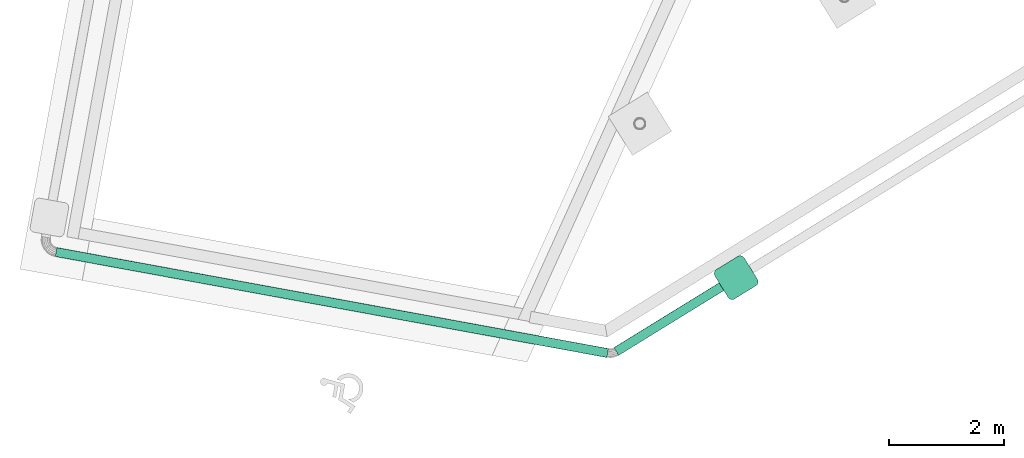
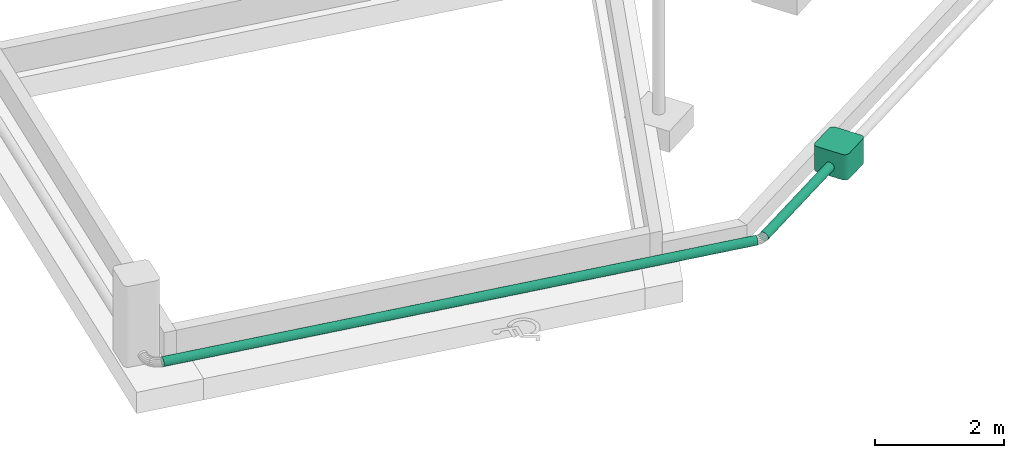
# One storey, part 7 of 17: 2 flow segments, 1 flow controller.
"""IFC2X3 building model written with IfcOpenShell, lengths in centimetres."""

from ifc_helpers import new_model, entity, si_unit, converted_unit, derived_unit, direction, frame, origin, origin_2d_with_axis, place, context, subcontext, project, spatial, circle, extrude, faceted_brep, source, transform, mapped, material, type_object, type_shapes, element, save


model = new_model("IFC2X3")

# Units and contexts
model_context = context("Model", 3, precision=0.001, world=origin(), true_north=direction((6.12303176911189e-17, 1.0)))
body_context = subcontext(model_context, "Body", "Model", "MODEL_VIEW")
ifc_project = project(units=[si_unit("LENGTHUNIT", "METRE", prefix="CENTI"), si_unit("AREAUNIT", "SQUARE_METRE"), si_unit("VOLUMEUNIT", "CUBIC_METRE"), converted_unit("PLANEANGLEUNIT", "DEGREE", entity("IfcRatioMeasure", 0.0174532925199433), si_unit("PLANEANGLEUNIT", "RADIAN"), dimensions=[0, 0, 0, 0, 0, 0, 0]), si_unit("MASSUNIT", "GRAM", prefix="KILO"), derived_unit("MASSDENSITYUNIT", [(si_unit("MASSUNIT", "GRAM", prefix="KILO"), 1), (si_unit("LENGTHUNIT", "METRE"), -3)]), si_unit("TIMEUNIT", "SECOND"), si_unit("FREQUENCYUNIT", "HERTZ"), si_unit("THERMODYNAMICTEMPERATUREUNIT", "DEGREE_CELSIUS"), derived_unit("THERMALTRANSMITTANCEUNIT", [(si_unit("MASSUNIT", "GRAM", prefix="KILO"), 1), (si_unit("THERMODYNAMICTEMPERATUREUNIT", "KELVIN"), -1), (si_unit("TIMEUNIT", "SECOND"), -3)]), derived_unit("VOLUMETRICFLOWRATEUNIT", [(si_unit("LENGTHUNIT", "METRE"), 3), (si_unit("TIMEUNIT", "SECOND"), -1)]), si_unit("ELECTRICCURRENTUNIT", "AMPERE"), si_unit("ELECTRICVOLTAGEUNIT", "VOLT"), si_unit("POWERUNIT", "WATT"), si_unit("FORCEUNIT", "NEWTON", prefix="KILO"), si_unit("ILLUMINANCEUNIT", "LUX"), si_unit("LUMINOUSFLUXUNIT", "LUMEN"), si_unit("LUMINOUSINTENSITYUNIT", "CANDELA"), derived_unit("USERDEFINED", [(si_unit("MASSUNIT", "GRAM", prefix="KILO"), -1), (si_unit("LENGTHUNIT", "METRE"), -2), (si_unit("TIMEUNIT", "SECOND"), 3), (si_unit("LUMINOUSFLUXUNIT", "LUMEN"), 1)]), derived_unit("LINEARVELOCITYUNIT", [(si_unit("LENGTHUNIT", "METRE"), 1), (si_unit("TIMEUNIT", "SECOND"), -1)]), si_unit("PRESSUREUNIT", "PASCAL"), derived_unit("USERDEFINED", [(si_unit("LENGTHUNIT", "METRE"), -2), (si_unit("MASSUNIT", "GRAM", prefix="KILO"), 1), (si_unit("TIMEUNIT", "SECOND"), -2)])], contexts=[model_context])

# Site, building, storey
site_placement = place(None, frame((2611.71187422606, 13650.4058644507, 0.0), z_axis=(0.0, 0.0, 1.0), x_axis=(0.0673222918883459, -0.997731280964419, 0.0)))
site = spatial("IfcSite", under=ifc_project, at=site_placement, Name="Surface", CompositionType="ELEMENT")
building_placement = place(site_placement, origin())
building = spatial("IfcBuilding", under=site, at=building_placement, CompositionType="ELEMENT")
storey_placement = place(building_placement, frame((0.0, 0.0, 86950.0)))
storey = spatial("IfcBuildingStorey", under=building, at=storey_placement, Name="-1 Soubassement", CompositionType="ELEMENT", Elevation=86950.0)

# Flow controller
ifc_material = material(Name="Béton, précoulé")
valve_type = type_object("IfcValveType", Name="Regard EP 600x600", PredefinedType="NOTDEFINED", material=ifc_material)
shared_shape = source(origin(), body_context, "Body", "Brep", [
    faceted_brep([(56.1595272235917, 59.0877304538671, 48.0), (54.2300795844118, 59.8869338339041, 48.0), (52.1595272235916, 60.1595272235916, 48.0), (8.15952722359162, 60.1595272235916, 48.0), (6.08897486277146, 59.8869338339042, 48.0), (4.15952722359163, 59.0877304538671, 48.0), (2.50267297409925, 57.816381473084, 48.0), (1.23132399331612, 56.1595272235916, 48.0), (0.432120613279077, 54.2300795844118, 48.0), (0.159527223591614, 52.1595272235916, 48.0), (0.1595272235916, 8.15952722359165, 48.0), (0.432120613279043, 6.08897486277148, 48.0), (1.23132399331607, 4.15952722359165, 48.0), (2.50267297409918, 2.50267297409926, 48.0), (4.15952722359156, 1.23132399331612, 48.0), (6.08897486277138, 0.43212061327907, 48.0), (8.15952722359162, 0.159527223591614, 48.0), (52.1595272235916, 0.159527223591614, 48.0), (54.2300795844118, 0.43212061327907, 48.0), (56.1595272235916, 1.2313239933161, 48.0), (57.816381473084, 2.50267297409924, 48.0), (59.0877304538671, 4.15952722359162, 48.0), (59.8869338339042, 6.08897486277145, 48.0), (60.1595272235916, 8.15952722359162, 48.0), (60.1595272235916, 52.1595272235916, 48.0), (59.8869338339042, 54.2300795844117, 48.0), (59.0877304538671, 56.1595272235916, 48.0), (57.816381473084, 57.816381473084, 48.0), (2.50267297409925, 57.816381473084, 43.0), (4.15952722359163, 59.0877304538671, 43.0), (6.08897486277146, 59.8869338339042, 43.0), (8.15952722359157, 60.1595272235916, 43.0), (52.1595272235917, 60.1595272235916, 43.0), (54.2300795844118, 59.8869338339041, 43.0), (56.1595272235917, 59.0877304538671, 43.0), (57.816381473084, 57.816381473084, 43.0), (59.0877304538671, 56.1595272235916, 43.0), (59.8869338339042, 54.2300795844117, 43.0), (60.1595272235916, 52.1595272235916, 43.0), (60.1595272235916, 8.15952722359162, 43.0), (59.8869338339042, 6.08897486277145, 43.0), (59.0877304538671, 4.15952722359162, 43.0), (57.816381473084, 2.50267297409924, 43.0), (56.1595272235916, 1.2313239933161, 43.0), (54.2300795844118, 0.43212061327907, 43.0), (52.1595272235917, 0.159527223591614, 43.0), (8.15952722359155, 0.1595272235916, 43.0), (6.08897486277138, 0.43212061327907, 43.0), (4.15952722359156, 1.23132399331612, 43.0), (2.50267297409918, 2.50267297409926, 43.0), (1.23132399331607, 4.15952722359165, 43.0), (0.432120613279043, 6.08897486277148, 43.0), (0.1595272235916, 8.1595272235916, 43.0), (0.159527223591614, 52.1595272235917, 43.0), (0.432120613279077, 54.2300795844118, 43.0), (1.23132399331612, 56.1595272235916, 43.0)], [[[0, 1, 2, 3, 4, 5, 6, 7, 8, 9, 10, 11, 12, 13, 14, 15, 16, 17, 18, 19, 20, 21, 22, 23, 24, 25, 26, 27]], [[28, 29, 30, 31, 32, 33, 34, 35, 36, 37, 38, 39, 40, 41, 42, 43, 44, 45, 46, 47, 48, 49, 50, 51, 52, 53, 54, 55]], [[3, 2, 32, 31]], [[4, 3, 31, 30]], [[5, 4, 30, 29]], [[6, 5, 29, 28]], [[54, 53, 9, 8]], [[7, 6, 28, 55]], [[55, 54, 8, 7]], [[10, 9, 53, 52]], [[11, 10, 52, 51]], [[12, 11, 51, 50]], [[13, 12, 50, 49]], [[47, 46, 16, 15]], [[14, 48, 47, 15]], [[48, 14, 13, 49]], [[17, 16, 46, 45]], [[18, 17, 45, 44]], [[19, 18, 44, 43]], [[20, 19, 43, 42]], [[42, 41, 21, 20]], [[21, 41, 40, 22]], [[23, 22, 40, 39]], [[24, 23, 39, 38]], [[25, 24, 38, 37]], [[26, 25, 37, 36]], [[27, 26, 36, 35]], [[0, 27, 35, 34]], [[0, 34, 33, 1]], [[33, 32, 2, 1]]]),
    faceted_brep([(6.08897486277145, 59.8869338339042, 0.0), (8.15952722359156, 60.1595272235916, 0.0), (52.1595272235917, 60.1595272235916, 0.0), (54.2300795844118, 59.8869338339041, 0.0), (56.1595272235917, 59.0877304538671, 0.0), (57.816381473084, 57.816381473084, 0.0), (59.0877304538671, 56.1595272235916, 0.0), (59.8869338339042, 54.2300795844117, 0.0), (60.1595272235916, 52.1595272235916, 0.0), (60.1595272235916, 8.15952722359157, 0.0), (59.8869338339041, 6.0889748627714, 0.0), (59.0877304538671, 4.15952722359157, 0.0), (57.816381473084, 2.5026729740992, 0.0), (56.1595272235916, 1.23132399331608, 0.0), (54.2300795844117, 0.432120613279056, 0.0), (52.1595272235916, 0.159527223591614, 0.0), (8.15952722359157, 0.159527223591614, 0.0), (6.0889748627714, 0.432120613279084, 0.0), (4.15952722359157, 1.23132399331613, 0.0), (2.5026729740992, 2.50267297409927, 0.0), (1.23132399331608, 4.15952722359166, 0.0), (0.432120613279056, 6.08897486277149, 0.0), (0.159527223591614, 8.15952722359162, 0.0), (0.159527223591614, 52.1595272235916, 0.0), (0.43212061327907, 54.2300795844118, 0.0), (1.23132399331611, 56.1595272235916, 0.0), (2.50267297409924, 57.816381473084, 0.0), (4.15952722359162, 59.0877304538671, 0.0), (52.1595272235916, 60.1595272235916, 5.0), (8.15952722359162, 60.1595272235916, 5.0), (6.08897486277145, 59.8869338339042, 5.0), (4.15952722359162, 59.0877304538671, 5.0), (2.50267297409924, 57.816381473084, 5.0), (1.23132399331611, 56.1595272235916, 5.0), (0.43212061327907, 54.2300795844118, 5.0), (0.159527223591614, 52.1595272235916, 5.0), (0.159527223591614, 8.15952722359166, 5.0), (0.432120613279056, 6.08897486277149, 5.0), (1.23132399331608, 4.15952722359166, 5.0), (2.5026729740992, 2.50267297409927, 5.0), (4.15952722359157, 1.23132399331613, 5.0), (6.0889748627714, 0.432120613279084, 5.0), (8.15952722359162, 0.159527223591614, 5.0), (52.1595272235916, 0.159527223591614, 5.0), (54.2300795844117, 0.432120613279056, 5.0), (56.1595272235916, 1.23132399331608, 5.0), (57.816381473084, 2.5026729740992, 5.0), (59.0877304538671, 4.15952722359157, 5.0), (59.8869338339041, 6.0889748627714, 5.0), (60.1595272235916, 8.15952722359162, 5.0), (60.1595272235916, 52.1595272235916, 5.0), (59.8869338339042, 54.2300795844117, 5.0), (59.0877304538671, 56.1595272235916, 5.0), (57.816381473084, 57.816381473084, 5.0), (56.1595272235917, 59.0877304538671, 5.0), (54.2300795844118, 59.8869338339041, 5.0)], [[[0, 1, 2, 3, 4, 5, 6, 7, 8, 9, 10, 11, 12, 13, 14, 15, 16, 17, 18, 19, 20, 21, 22, 23, 24, 25, 26, 27]], [[28, 29, 30, 31, 32, 33, 34, 35, 36, 37, 38, 39, 40, 41, 42, 43, 44, 45, 46, 47, 48, 49, 50, 51, 52, 53, 54, 55]], [[29, 28, 2, 1]], [[36, 35, 23, 22]], [[43, 42, 16, 15]], [[50, 49, 9, 8]], [[30, 29, 1, 0]], [[31, 30, 0, 27]], [[32, 31, 27, 26]], [[24, 23, 35, 34]], [[33, 32, 26, 25]], [[25, 24, 34, 33]], [[37, 36, 22, 21]], [[38, 37, 21, 20]], [[39, 38, 20, 19]], [[17, 16, 42, 41]], [[40, 18, 17, 41]], [[18, 40, 39, 19]], [[44, 43, 15, 14]], [[45, 44, 14, 13]], [[46, 45, 13, 12]], [[12, 11, 47, 46]], [[47, 11, 10, 48]], [[49, 48, 10, 9]], [[51, 50, 8, 7]], [[52, 51, 7, 6]], [[53, 52, 6, 5]], [[54, 53, 5, 4]], [[54, 4, 3, 55]], [[3, 2, 28, 55]]]),
    faceted_brep([(56.1595272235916, 1.23132399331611, 43.0), (53.6595272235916, 5.56145101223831, 43.0), (54.2300795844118, 0.432120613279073, 43.0), (54.2808475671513, 6.03820688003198, 43.0), (57.816381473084, 2.50267297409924, 43.0), (59.0877304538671, 4.15952722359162, 43.0), (54.7576034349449, 6.65952722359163, 43.0), (59.8869338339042, 6.08897486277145, 43.0), (55.0573047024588, 7.38307008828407, 43.0), (60.1595272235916, 8.15952722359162, 43.0), (55.1595272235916, 8.15952722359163, 43.0), (55.1595272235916, 52.1595272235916, 43.0), (60.1595272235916, 52.1595272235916, 43.0), (55.0573047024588, 52.9359843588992, 43.0), (59.8869338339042, 54.2300795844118, 43.0), (54.7576034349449, 53.6595272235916, 43.0), (59.0877304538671, 56.1595272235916, 43.0), (54.2808475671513, 54.2808475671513, 43.0), (57.816381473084, 57.816381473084, 43.0), (56.1595272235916, 59.0877304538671, 43.0), (53.6595272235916, 54.7576034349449, 43.0), (54.2300795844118, 59.8869338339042, 43.0), (52.9359843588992, 55.0573047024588, 43.0), (52.1595272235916, 60.1595272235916, 43.0), (52.1595272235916, 55.1595272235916, 43.0), (8.15952722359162, 55.1595272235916, 43.0), (8.15952722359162, 60.1595272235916, 43.0), (7.38307008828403, 55.0573047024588, 43.0), (6.08897486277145, 59.8869338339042, 43.0), (6.6595272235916, 54.7576034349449, 43.0), (4.15952722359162, 59.0877304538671, 43.0), (6.03820688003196, 54.2808475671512, 43.0), (2.50267297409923, 57.816381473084, 43.0), (1.2313239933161, 56.1595272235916, 43.0), (5.56145101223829, 53.6595272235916, 43.0), (0.43212061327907, 54.2300795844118, 43.0), (5.26174974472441, 52.9359843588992, 43.0), (0.159527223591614, 52.1595272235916, 43.0), (5.15952722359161, 52.1595272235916, 43.0), (0.159527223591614, 8.15952722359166, 43.0), (5.15952722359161, 8.1595272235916, 43.0), (5.26174974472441, 7.38307008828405, 43.0), (0.432120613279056, 6.08897486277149, 43.0), (5.5614510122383, 6.65952722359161, 43.0), (1.23132399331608, 4.15952722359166, 43.0), (6.03820688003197, 6.03820688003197, 43.0), (2.5026729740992, 2.50267297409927, 43.0), (4.15952722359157, 1.23132399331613, 43.0), (6.65952722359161, 5.56145101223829, 43.0), (6.0889748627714, 0.43212061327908, 43.0), (7.38307008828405, 5.26174974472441, 43.0), (8.15952722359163, 0.15952722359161, 43.0), (8.15952722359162, 5.15952722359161, 43.0), (52.1595272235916, 0.15952722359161, 43.0), (52.9359843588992, 5.26174974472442, 43.0), (52.1595272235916, 5.15952722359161, 43.0), (56.1595272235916, 59.0877304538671, 5.0), (53.6595272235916, 54.7576034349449, 5.0), (54.2300795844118, 59.8869338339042, 5.0), (54.2808475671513, 54.2808475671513, 5.0), (57.816381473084, 57.816381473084, 5.0), (59.0877304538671, 56.1595272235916, 5.0), (54.7576034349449, 53.6595272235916, 5.0), (59.8869338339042, 54.2300795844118, 5.0), (55.0573047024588, 52.9359843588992, 5.0), (60.1595272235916, 52.1595272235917, 5.0), (55.1595272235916, 52.1595272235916, 5.0), (55.1595272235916, 8.15952722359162, 5.0), (60.1595272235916, 8.15952722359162, 5.0), (55.0573047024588, 7.38307008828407, 5.0), (59.8869338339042, 6.08897486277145, 5.0), (54.7576034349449, 6.65952722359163, 5.0), (59.0877304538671, 4.15952722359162, 5.0), (54.2808475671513, 6.03820688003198, 5.0), (57.816381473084, 2.50267297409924, 5.0), (56.1595272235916, 1.23132399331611, 5.0), (53.6595272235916, 5.56145101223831, 5.0), (54.2300795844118, 0.432120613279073, 5.0), (52.9359843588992, 5.26174974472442, 5.0), (52.1595272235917, 0.15952722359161, 5.0), (52.1595272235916, 5.15952722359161, 5.0), (8.1595272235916, 5.15952722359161, 5.0), (8.15952722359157, 0.15952722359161, 5.0), (7.38307008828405, 5.26174974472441, 5.0), (6.0889748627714, 0.43212061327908, 5.0), (6.65952722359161, 5.56145101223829, 5.0), (4.15952722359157, 1.23132399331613, 5.0), (6.03820688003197, 6.03820688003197, 5.0), (2.5026729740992, 2.50267297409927, 5.0), (1.23132399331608, 4.15952722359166, 5.0), (5.5614510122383, 6.65952722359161, 5.0), (0.432120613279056, 6.08897486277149, 5.0), (5.26174974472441, 7.38307008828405, 5.0), (0.159527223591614, 8.15952722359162, 5.0), (5.15952722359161, 8.15952722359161, 5.0), (0.159527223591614, 52.1595272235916, 5.0), (5.15952722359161, 52.1595272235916, 5.0), (5.26174974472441, 52.9359843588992, 5.0), (0.43212061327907, 54.2300795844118, 5.0), (5.56145101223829, 53.6595272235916, 5.0), (1.2313239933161, 56.1595272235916, 5.0), (6.03820688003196, 54.2808475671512, 5.0), (2.50267297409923, 57.816381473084, 5.0), (4.15952722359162, 59.0877304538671, 5.0), (6.6595272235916, 54.7576034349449, 5.0), (6.08897486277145, 59.8869338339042, 5.0), (7.38307008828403, 55.0573047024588, 5.0), (8.15952722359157, 60.1595272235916, 5.0), (8.1595272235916, 55.1595272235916, 5.0), (52.1595272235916, 60.1595272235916, 5.0), (52.9359843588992, 55.0573047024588, 5.0), (52.1595272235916, 55.1595272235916, 5.0), (34.1595272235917, 60.1595272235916, 24.9282032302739), (32.2300795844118, 60.1595272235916, 25.7274066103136), (35.8163814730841, 60.1595272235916, 23.6568542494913), (30.1595272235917, 60.1595272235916, 26.0), (37.0877304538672, 60.1595272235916, 22.0), (37.8869338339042, 60.1595272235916, 20.0705523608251), (38.1595272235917, 60.1595272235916, 18.0), (37.8869338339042, 60.1595272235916, 15.9294476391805), (37.0877304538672, 60.1595272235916, 14.0), (35.8163814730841, 60.1595272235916, 12.3431457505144), (34.1595272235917, 60.1595272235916, 11.0717967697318), (32.2300795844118, 60.1595272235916, 10.2725933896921), (30.1595272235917, 60.1595272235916, 10.0), (22.4321206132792, 60.1595272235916, 20.0705523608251), (28.0889748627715, 60.1595272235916, 10.2725933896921), (26.1595272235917, 60.1595272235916, 11.0717967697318), (24.5026729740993, 60.1595272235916, 12.3431457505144), (23.2313239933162, 60.1595272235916, 14.0), (22.4321206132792, 60.1595272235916, 15.9294476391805), (22.1595272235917, 60.1595272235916, 18.0), (23.2313239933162, 60.1595272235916, 22.0), (28.0889748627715, 60.1595272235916, 25.7274066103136), (26.1595272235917, 60.1595272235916, 24.9282032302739), (24.5026729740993, 60.1595272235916, 23.6568542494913), (26.15952722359, 0.15952722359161, 24.9282032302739), (28.0889748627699, 0.15952722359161, 25.7274066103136), (24.5026729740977, 0.15952722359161, 23.6568542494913), (30.15952722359, 0.15952722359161, 26.0), (23.2313239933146, 0.15952722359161, 22.0), (22.4321206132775, 0.15952722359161, 20.0705523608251), (22.1595272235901, 0.15952722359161, 18.0), (22.4321206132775, 0.15952722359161, 15.9294476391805), (23.2313239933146, 0.15952722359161, 14.0), (24.5026729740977, 0.15952722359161, 12.3431457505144), (26.1595272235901, 0.15952722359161, 11.0717967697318), (28.0889748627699, 0.15952722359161, 10.2725933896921), (30.1595272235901, 0.15952722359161, 10.0), (37.8869338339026, 0.15952722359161, 20.0705523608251), (32.2300795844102, 0.15952722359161, 10.2725933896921), (34.1595272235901, 0.15952722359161, 11.0717967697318), (35.8163814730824, 0.15952722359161, 12.3431457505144), (37.0877304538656, 0.15952722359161, 14.0), (37.8869338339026, 0.15952722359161, 15.9294476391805), (38.1595272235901, 0.15952722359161, 18.0), (37.0877304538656, 0.15952722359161, 22.0), (32.2300795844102, 0.15952722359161, 25.7274066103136), (34.15952722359, 0.15952722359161, 24.9282032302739), (35.8163814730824, 0.15952722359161, 23.6568542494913), (22.1595272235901, 5.15952722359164, 18.0), (22.4321206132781, 5.15952722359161, 15.9294476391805), (22.1595272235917, 55.1595272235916, 18.0), (22.4321206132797, 55.1595272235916, 15.9294476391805), (23.2313239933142, 5.15952722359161, 14.0), (23.2313239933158, 55.1595272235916, 14.0), (26.1595272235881, 5.15952722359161, 11.0717967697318), (24.5026729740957, 5.15952722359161, 12.3431457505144), (24.5026729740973, 55.1595272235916, 12.3431457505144), (26.1595272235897, 55.1595272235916, 11.0717967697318), (28.0889748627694, 5.15952722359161, 10.2725933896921), (28.088974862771, 55.1595272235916, 10.2725933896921), (30.15952722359, 5.15952722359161, 10.0), (30.1595272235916, 55.1595272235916, 10.0), (32.2300795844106, 5.15952722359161, 10.2725933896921), (32.2300795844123, 55.1595272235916, 10.2725933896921), (37.8869338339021, 5.15952722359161, 15.9294476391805), (37.087730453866, 5.15952722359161, 14.0), (37.0877304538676, 55.1595272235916, 14.0), (37.8869338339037, 55.1595272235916, 15.9294476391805), (35.8163814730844, 5.15952722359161, 12.3431457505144), (35.816381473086, 55.1595272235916, 12.3431457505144), (38.1595272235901, 5.15952722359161, 18.0), (38.1595272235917, 55.1595272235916, 18.0), (34.1595272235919, 5.15952722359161, 11.0717967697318), (34.1595272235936, 55.1595272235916, 11.0717967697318), (37.8869338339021, 5.15952722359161, 20.0705523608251), (37.8869338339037, 55.1595272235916, 20.0705523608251), (37.087730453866, 5.15952722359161, 22.0), (37.0877304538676, 55.1595272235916, 22.0), (34.159527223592, 5.15952722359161, 24.9282032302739), (35.8163814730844, 5.15952722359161, 23.6568542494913), (35.816381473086, 55.1595272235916, 23.6568542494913), (34.1595272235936, 55.1595272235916, 24.9282032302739), (32.2300795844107, 5.15952722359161, 25.7274066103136), (32.2300795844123, 55.1595272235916, 25.7274066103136), (30.15952722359, 5.15952722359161, 26.0), (30.1595272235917, 55.1595272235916, 26.0), (26.1595272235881, 5.15952722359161, 24.9282032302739), (24.5026729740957, 5.15952722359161, 23.6568542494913), (26.1595272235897, 55.1595272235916, 24.9282032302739), (24.5026729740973, 55.1595272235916, 23.6568542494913), (22.4321206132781, 5.15952722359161, 20.0705523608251), (23.2313239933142, 5.15952722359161, 22.0), (23.2313239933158, 55.1595272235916, 22.0), (22.4321206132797, 55.1595272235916, 20.0705523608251), (28.0889748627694, 5.15952722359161, 25.7274066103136), (28.088974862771, 55.1595272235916, 25.7274066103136), (8.15952722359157, 55.1595272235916, 23.8751470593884), (52.1595272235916, 55.1595272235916, 24.1248529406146), (53.3075775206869, 54.9311658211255, 24.0), (52.7444457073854, 55.1019531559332, 21.2463431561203), (54.9311658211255, 53.3075775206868, 24.0), (55.1018157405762, 52.7451365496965, 21.2342534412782), (53.9858115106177, 54.5395872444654, 24.0), (54.5395872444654, 53.9858115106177, 24.0), (55.1595272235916, 52.1595272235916, 23.8751470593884), (55.1595272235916, 8.15952722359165, 24.1248529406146), (54.5395872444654, 6.33324293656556, 24.0), (53.3075775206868, 5.38788862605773, 24.0), (52.7451365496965, 5.21723870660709, 21.2342534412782), (54.9311658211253, 7.01147692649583, 24.0), (55.1018157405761, 7.57391789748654, 26.7657465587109), (53.9858115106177, 5.77946720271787, 24.0), (52.1595272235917, 5.15952722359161, 23.8751470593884), (8.15952722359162, 5.15952722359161, 24.1248529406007), (7.57460873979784, 5.21710129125, 21.2463431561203), (7.01147692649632, 5.38788862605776, 24.0), (5.38788862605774, 7.01147692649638, 24.0), (5.21723870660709, 7.57391789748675, 21.2342534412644), (6.33324293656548, 5.77946720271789, 24.0), (5.77946720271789, 6.33324293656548, 24.0), (5.15952722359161, 8.15952722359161, 23.8751470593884), (5.15952722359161, 52.1595272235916, 24.1248529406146), (5.21710129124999, 52.7444457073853, 21.2463431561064), (5.38788862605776, 53.3075775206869, 24.0), (7.01147692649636, 54.9311658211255, 24.0), (7.57391789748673, 55.1018157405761, 21.2342534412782), (5.77946720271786, 53.9858115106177, 24.0), (6.33324293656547, 54.5395872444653, 24.0)], [[[0, 1, 2]], [[1, 0, 3]], [[4, 3, 0]], [[4, 5, 3]], [[5, 6, 3]], [[5, 7, 6]], [[8, 6, 7]], [[8, 7, 9]], [[8, 9, 10]], [[10, 9, 11]], [[12, 11, 9]], [[13, 11, 12]], [[13, 12, 14]], [[15, 13, 14]], [[16, 15, 14]], [[17, 15, 16]], [[18, 17, 16]], [[18, 19, 17]], [[19, 20, 17]], [[19, 21, 20]], [[20, 21, 22]], [[21, 23, 22]], [[24, 22, 23]], [[24, 23, 25]], [[26, 25, 23]], [[27, 25, 26]], [[27, 26, 28]], [[27, 28, 29]], [[28, 30, 29]], [[31, 29, 30]], [[31, 30, 32]], [[31, 32, 33]], [[33, 34, 31]], [[35, 34, 33]], [[35, 36, 34]], [[36, 35, 37]], [[37, 38, 36]], [[38, 37, 39]], [[39, 40, 38]], [[40, 39, 41]], [[42, 41, 39]], [[41, 42, 43]], [[43, 42, 44]], [[43, 44, 45]], [[45, 44, 46]], [[45, 46, 47]], [[45, 47, 48]], [[47, 49, 48]], [[50, 48, 49]], [[51, 50, 49]], [[51, 52, 50]], [[52, 51, 53]], [[53, 2, 54]], [[54, 55, 53]], [[53, 55, 52]], [[54, 2, 1]], [[56, 57, 58]], [[57, 56, 59]], [[60, 59, 56]], [[60, 61, 59]], [[61, 62, 59]], [[61, 63, 62]], [[64, 62, 63]], [[64, 63, 65]], [[64, 65, 66]], [[66, 65, 67]], [[68, 67, 65]], [[69, 67, 68]], [[69, 68, 70]], [[71, 69, 70]], [[72, 71, 70]], [[73, 71, 72]], [[74, 73, 72]], [[74, 75, 73]], [[75, 76, 73]], [[75, 77, 76]], [[76, 77, 78]], [[77, 79, 78]], [[80, 78, 79]], [[80, 79, 81]], [[82, 81, 79]], [[83, 81, 82]], [[83, 82, 84]], [[83, 84, 85]], [[84, 86, 85]], [[87, 85, 86]], [[87, 86, 88]], [[87, 88, 89]], [[89, 90, 87]], [[91, 90, 89]], [[91, 92, 90]], [[92, 91, 93]], [[93, 94, 92]], [[94, 93, 95]], [[95, 96, 94]], [[96, 95, 97]], [[98, 97, 95]], [[97, 98, 99]], [[99, 98, 100]], [[99, 100, 101]], [[101, 100, 102]], [[101, 102, 103]], [[101, 103, 104]], [[103, 105, 104]], [[106, 104, 105]], [[107, 106, 105]], [[107, 108, 106]], [[108, 107, 109]], [[109, 58, 110]], [[110, 111, 109]], [[109, 111, 108]], [[110, 58, 57]], [[12, 9, 68, 65]], [[23, 112, 113]], [[112, 23, 114]], [[23, 113, 115]], [[116, 114, 23]], [[117, 116, 23]], [[117, 23, 109]], [[115, 26, 23]], [[109, 118, 117]], [[119, 118, 109]], [[120, 119, 109]], [[121, 120, 109]], [[109, 122, 121]], [[122, 109, 123]], [[124, 123, 109]], [[109, 107, 124]], [[26, 125, 107]], [[126, 124, 107]], [[127, 126, 107]], [[107, 128, 127]], [[128, 107, 129]], [[130, 129, 107]], [[131, 130, 107]], [[131, 107, 125]], [[132, 125, 26]], [[26, 115, 133]], [[26, 133, 134]], [[134, 135, 26]], [[135, 132, 26]], [[39, 37, 95, 93]], [[51, 136, 137]], [[136, 51, 138]], [[51, 137, 139]], [[140, 138, 51]], [[141, 140, 51]], [[141, 51, 82]], [[139, 53, 51]], [[82, 142, 141]], [[143, 142, 82]], [[144, 143, 82]], [[145, 144, 82]], [[82, 146, 145]], [[146, 82, 147]], [[148, 147, 82]], [[82, 79, 148]], [[53, 149, 79]], [[150, 148, 79]], [[151, 150, 79]], [[79, 152, 151]], [[152, 79, 153]], [[154, 153, 79]], [[155, 154, 79]], [[155, 79, 149]], [[156, 149, 53]], [[53, 139, 157]], [[53, 157, 158]], [[158, 159, 53]], [[159, 156, 53]], [[160, 142, 143, 161]], [[131, 162, 163, 130]], [[161, 143, 144, 164]], [[130, 163, 165, 129]], [[166, 167, 145, 146]], [[127, 128, 168, 169]], [[145, 167, 164, 144]], [[168, 128, 129, 165]], [[170, 166, 146, 147]], [[126, 127, 169, 171]], [[170, 147, 148, 172]], [[126, 171, 173, 124]], [[150, 174, 172, 148]], [[175, 123, 124, 173]], [[176, 177, 153, 154]], [[119, 120, 178, 179]], [[180, 152, 153, 177]], [[121, 181, 178, 120]], [[176, 154, 155, 182]], [[119, 179, 183, 118]], [[151, 184, 174, 150]], [[185, 122, 123, 175]], [[151, 152, 180, 184]], [[185, 181, 121, 122]], [[182, 155, 149, 186]], [[118, 183, 187, 117]], [[186, 149, 156, 188]], [[117, 187, 189, 116]], [[190, 191, 159, 158]], [[112, 114, 192, 193]], [[159, 191, 188, 156]], [[192, 114, 116, 189]], [[194, 190, 158, 157]], [[113, 112, 193, 195]], [[194, 157, 139, 196]], [[113, 195, 197, 115]], [[198, 136, 138, 199]], [[134, 200, 201, 135]], [[202, 203, 140, 141]], [[125, 132, 204, 205]], [[203, 199, 138, 140]], [[132, 135, 201, 204]], [[160, 202, 141, 142]], [[131, 125, 205, 162]], [[206, 137, 136, 198]], [[133, 207, 200, 134]], [[206, 196, 139, 137]], [[133, 115, 197, 207]], [[14, 63, 61, 16]], [[16, 61, 60, 18]], [[12, 65, 63, 14]], [[19, 56, 58, 21]], [[21, 58, 109, 23]], [[18, 60, 56, 19]], [[28, 105, 103, 30]], [[30, 103, 102, 32]], [[107, 105, 28, 26]], [[33, 100, 98, 35]], [[35, 98, 95, 37]], [[32, 102, 100, 33]], [[42, 91, 89, 44]], [[44, 89, 88, 46]], [[93, 91, 42, 39]], [[47, 86, 84, 49]], [[49, 84, 82, 51]], [[46, 88, 86, 47]], [[2, 77, 75, 0]], [[0, 75, 74, 4]], [[79, 77, 2, 53]], [[5, 72, 70, 7]], [[7, 70, 68, 9]], [[4, 74, 72, 5]], [[25, 200, 207]], [[200, 25, 201]], [[25, 207, 197]], [[204, 201, 25]], [[205, 204, 25]], [[205, 25, 208]], [[197, 24, 25]], [[205, 208, 108]], [[108, 162, 205]], [[163, 162, 108]], [[165, 163, 108]], [[168, 165, 108]], [[108, 169, 168]], [[169, 108, 171]], [[173, 171, 108]], [[108, 111, 173]], [[175, 173, 111]], [[185, 175, 111]], [[111, 181, 185]], [[181, 111, 178]], [[179, 178, 111]], [[183, 179, 111]], [[183, 111, 187]], [[187, 111, 209]], [[187, 209, 24]], [[24, 197, 195]], [[24, 195, 193]], [[193, 192, 24]], [[189, 187, 24]], [[192, 189, 24]], [[210, 22, 211]], [[212, 213, 13]], [[24, 209, 111, 211]], [[20, 22, 210]], [[24, 211, 22]], [[20, 210, 214]], [[214, 57, 59]], [[211, 110, 210]], [[57, 210, 110]], [[17, 214, 215]], [[216, 11, 213, 66]], [[215, 15, 17]], [[213, 11, 13]], [[64, 212, 62]], [[212, 13, 15]], [[57, 214, 210]], [[215, 62, 212]], [[62, 215, 59]], [[212, 64, 213]], [[64, 66, 213]], [[20, 214, 17]], [[215, 214, 59]], [[110, 211, 111]], [[15, 215, 212]], [[11, 216, 66, 67, 217, 10]], [[6, 218, 3]], [[219, 220, 54]], [[221, 6, 8]], [[221, 8, 222]], [[1, 223, 219]], [[8, 10, 222]], [[6, 221, 218]], [[218, 71, 73]], [[222, 10, 217, 67]], [[71, 221, 69]], [[3, 218, 223]], [[224, 55, 220, 80]], [[223, 1, 3]], [[221, 222, 69]], [[220, 55, 54]], [[219, 54, 1]], [[222, 67, 69]], [[223, 76, 219]], [[219, 78, 220]], [[78, 80, 220]], [[71, 218, 221]], [[78, 219, 76]], [[223, 218, 73]], [[76, 223, 73]], [[55, 190, 194]], [[190, 55, 191]], [[55, 194, 196]], [[188, 191, 55]], [[186, 188, 55]], [[186, 55, 224]], [[196, 52, 55]], [[186, 224, 80]], [[80, 182, 186]], [[176, 182, 80]], [[177, 176, 80]], [[180, 177, 80]], [[80, 184, 180]], [[184, 80, 174]], [[172, 174, 80]], [[80, 81, 172]], [[170, 172, 81]], [[166, 170, 81]], [[81, 167, 166]], [[167, 81, 164]], [[161, 164, 81]], [[160, 161, 81]], [[160, 81, 202]], [[202, 81, 225]], [[202, 225, 52]], [[52, 196, 206]], [[52, 206, 198]], [[198, 199, 52]], [[203, 202, 52]], [[199, 203, 52]], [[226, 227, 50]], [[228, 229, 41]], [[52, 225, 81, 226]], [[227, 48, 50]], [[52, 226, 50]], [[85, 227, 83]], [[230, 85, 87]], [[226, 83, 227]], [[48, 227, 230]], [[45, 230, 231]], [[232, 40, 229, 94]], [[231, 43, 45]], [[229, 40, 41]], [[92, 228, 90]], [[228, 41, 43]], [[48, 230, 45]], [[231, 90, 228]], [[90, 231, 87]], [[228, 92, 229]], [[92, 94, 229]], [[43, 231, 228]], [[231, 230, 87]], [[83, 226, 81]], [[85, 230, 227]], [[40, 232, 94, 96, 233, 38]], [[234, 235, 36]], [[236, 237, 27]], [[38, 233, 96, 234]], [[235, 34, 36]], [[38, 234, 36]], [[99, 235, 97]], [[238, 99, 101]], [[234, 97, 235]], [[34, 235, 238]], [[31, 238, 239]], [[208, 25, 237, 108]], [[239, 29, 31]], [[237, 25, 27]], [[106, 236, 104]], [[236, 27, 29]], [[34, 238, 31]], [[239, 104, 236]], [[104, 239, 101]], [[236, 106, 237]], [[106, 108, 237]], [[29, 239, 236]], [[239, 238, 101]], [[97, 234, 96]], [[99, 238, 235]]]),
])
type_shapes(valve_type, [shared_shape])
flow_controller_placement = place(storey_placement, frame((5181.81046574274, 616.906834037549, 0.0), z_axis=(0.0, 0.0, 1.0), x_axis=(-0.88433550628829, -0.466851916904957, 0.0)))
element("IfcFlowController", 1, at=flow_controller_placement, inside=storey, type_object=valve_type, material=ifc_material, Name="Regard Eau pluviale 2:Regard EP 600x600", ObjectType="Regard Eau pluviale 2:Regard EP 600x600", context=body_context, shape_type="MappedRepresentation", body=[
    mapped(shared_shape, transform((0.0, 0.0, 0.0), scale=1.0)),
])

# Flow segments
pipe_segment_type = type_object("IfcPipeSegmentType", Name="Canalisation:Canalisation EP", PredefinedType="NOTDEFINED")
flow_segment_1_placement = place(storey_placement, origin())
element("IfcFlowSegment", 2, at=flow_segment_1_placement, inside=storey, type_object=pipe_segment_type, Name="Canalisation:Canalisation EP", ObjectType="Canalisation:Canalisation EP", context=body_context, shape_type="SweptSolid", body=[
    extrude(circle(Radius=8.0, at=origin_2d_with_axis()), frame((5045.19821457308, -601.145270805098, 18.0), z_axis=(0.245945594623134, 0.969283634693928, 0.0), x_axis=(-0.969283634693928, 0.245945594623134, 0.0)), (0.0, 0.0, 1.0), 975.480315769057),
])
flow_segment_2_placement = place(storey_placement, origin())
element("IfcFlowSegment", 3, at=flow_segment_2_placement, inside=storey, type_object=pipe_segment_type, Name="Canalisation:Canalisation EP", ObjectType="Canalisation:Canalisation EP", context=body_context, shape_type="SweptSolid", body=[
    extrude(circle(Radius=8.0, at=origin_2d_with_axis()), frame((5283.32314736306, 359.469048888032, 18.0), z_axis=(-0.465804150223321, 0.884887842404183, 0.0), x_axis=(-0.884887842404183, -0.465804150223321, 0.0)), (0.0, 0.0, 1.0), 214.893387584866),
])

save(model, "model.ifc")
